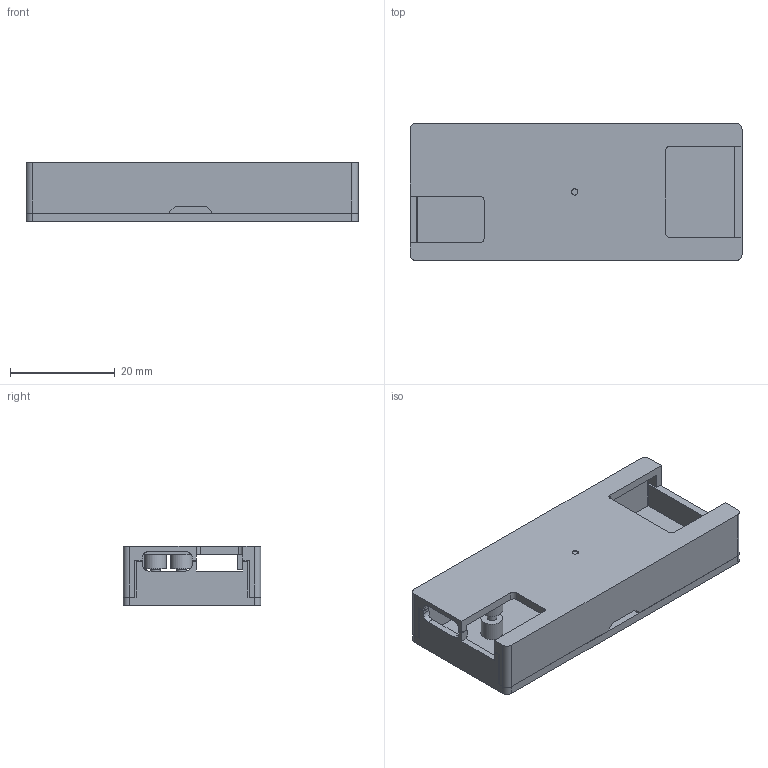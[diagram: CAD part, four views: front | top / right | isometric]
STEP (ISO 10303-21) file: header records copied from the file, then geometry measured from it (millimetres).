
FILE_DESCRIPTION(('Open CASCADE Model'),'2;1');
FILE_NAME('Open CASCADE Shape Model','2026-11-23T18:46:07',('Author'),( 'Open CASCADE'),'Open CASCADE STEP processor 7.9','Open CASCADE 7.9' ,'Unknown');
FILE_SCHEMA(('AUTOMOTIVE_DESIGN { 1 0 10303 214 1 1 1 1 }'));
Length unit declared in the file: millimetre
Products named in the file (3): LX0001 screwless case; Base; Lid
Assembly tree (2 placements, depth 2):
  LX0001 screwless case
    Base
    Lid
Bounding box: 63.45 x 26.3 x 11.3 mm (x, y, z)
Volume: 6878 mm3; surface area: 11457.3 mm2
Topology: 2 solids, 2 shells, 216 faces, 575 edges, 380 vertices
Faces by surface type: plane 167, cylinder 47, cone 2
Full cylindrical faces by diameter (mm): 1.2 x1, 1.5 x1, 1.8 x2, 2.3 x2, 4.2 x4, 22 x1
Entity records: 14353 total; most frequent: CARTESIAN_POINT 2672, DIRECTION 2192, LINE 1545, VECTOR 1545, ORIENTED_EDGE 1150, PCURVE 1150, DEFINITIONAL_REPRESENTATION 1150, EDGE_CURVE 575
